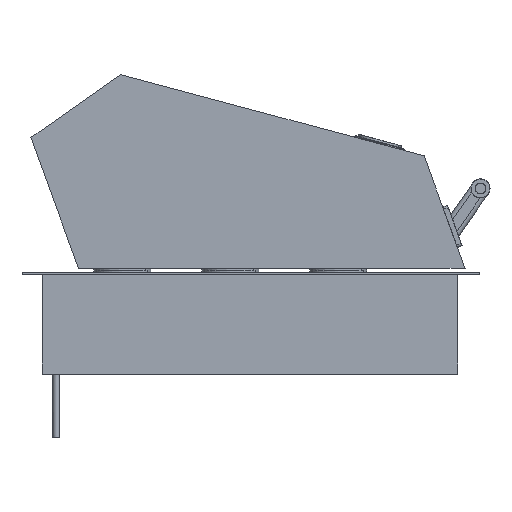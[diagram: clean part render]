
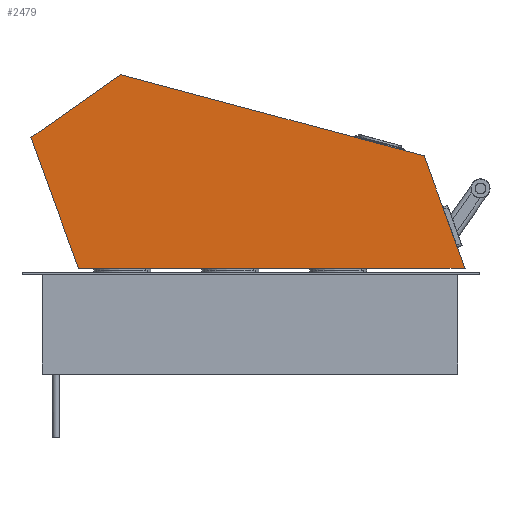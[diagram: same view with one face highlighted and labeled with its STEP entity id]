
A CAD part, left-side view. The second image highlights one B-rep face of the part: STEP entity #2479.
In plain terms, the highlighted planar face has unit normal (-1, 0, 0).
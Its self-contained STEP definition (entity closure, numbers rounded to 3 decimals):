
#130=LINE('',#4934,#221);
#138=LINE('',#4950,#229);
#139=LINE('',#4952,#230);
#140=LINE('',#4954,#231);
#141=LINE('',#4956,#232);
#221=VECTOR('',#3412,1000.);
#229=VECTOR('',#3424,1000.);
#230=VECTOR('',#3427,1000.);
#231=VECTOR('',#3428,1000.);
#232=VECTOR('',#3429,1000.);
#298=PLANE('',#3039);
#733=ORIENTED_EDGE('',*,*,#1336,.T.);
#734=ORIENTED_EDGE('',*,*,#1337,.T.);
#735=ORIENTED_EDGE('',*,*,#1338,.T.);
#736=ORIENTED_EDGE('',*,*,#1339,.T.);
#737=ORIENTED_EDGE('',*,*,#1328,.F.);
#1328=EDGE_CURVE('',#1656,#1658,#130,.T.);
#1336=EDGE_CURVE('',#1656,#1663,#138,.T.);
#1337=EDGE_CURVE('',#1663,#1664,#139,.T.);
#1338=EDGE_CURVE('',#1664,#1665,#140,.T.);
#1339=EDGE_CURVE('',#1665,#1658,#141,.T.);
#1656=VERTEX_POINT('',#4932);
#1658=VERTEX_POINT('',#4935);
#1663=VERTEX_POINT('',#4949);
#1664=VERTEX_POINT('',#4953);
#1665=VERTEX_POINT('',#4955);
#2060=EDGE_LOOP('',(#733,#734,#735,#736,#737));
#2260=FACE_BOUND('',#2060,.T.);
#2479=ADVANCED_FACE('',(#2260),#298,.F.);
#3039=AXIS2_PLACEMENT_3D('',#4951,#3425,#3426);
#3412=DIRECTION('',(0.,1.,0.));
#3424=DIRECTION('',(0.,0.342,0.94));
#3425=DIRECTION('',(1.,0.,0.));
#3426=DIRECTION('',(0.,1.,0.));
#3427=DIRECTION('',(0.,0.966,0.259));
#3428=DIRECTION('',(0.,0.819,-0.574));
#3429=DIRECTION('',(0.,-0.342,-0.94));
#4932=CARTESIAN_POINT('',(-1071.2,-9.126,120.754));
#4934=CARTESIAN_POINT('',(-1071.2,-9.126,120.754));
#4935=CARTESIAN_POINT('',(-1071.2,438.835,120.754));
#4949=CARTESIAN_POINT('',(-1071.2,38.259,250.942));
#4950=CARTESIAN_POINT('',(-1071.2,-9.126,120.754));
#4951=CARTESIAN_POINT('',(-1071.2,-9.126,120.754));
#4952=CARTESIAN_POINT('',(-1071.2,38.259,250.942));
#4953=CARTESIAN_POINT('',(-1071.2,389.758,345.126));
#4954=CARTESIAN_POINT('',(-1071.2,389.758,345.126));
#4955=CARTESIAN_POINT('',(-1071.2,493.947,272.173));
#4956=CARTESIAN_POINT('',(-1071.2,493.947,272.173));
